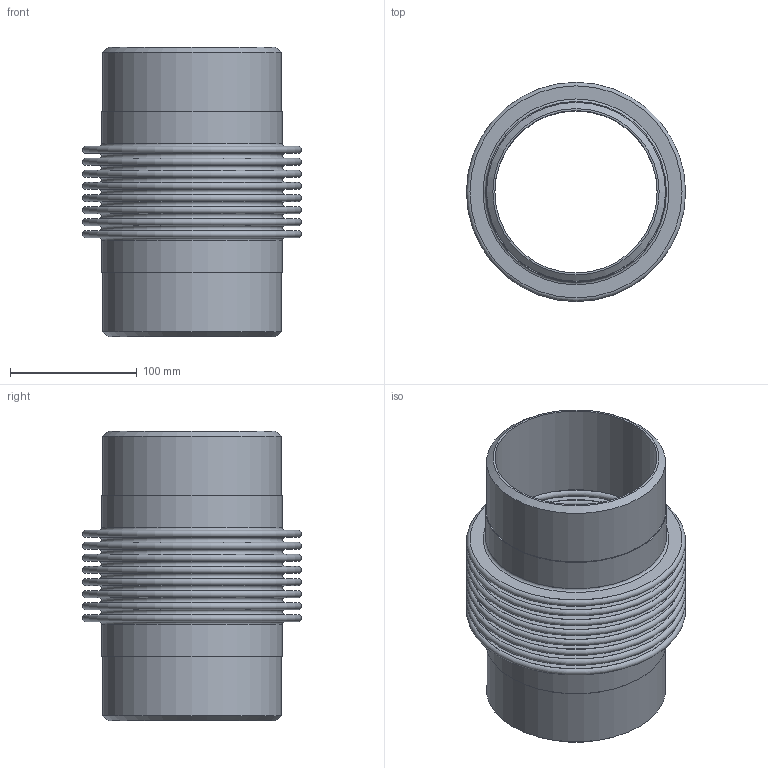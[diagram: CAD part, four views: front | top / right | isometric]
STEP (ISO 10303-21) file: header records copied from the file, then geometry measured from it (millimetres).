
FILE_DESCRIPTION(/* description */ ('EXPANSION JOINT,SINGLE, WELD ENDS,4 INCH NOMINAL'),/* implementation_level */ '2;1');
FILE_NAME(/* name */ 'US-5-150S- WELD-ENDS.stp',/* time_stamp */ '2026-07-30T09:38:46-05:00',/* author */ ('jorgef'),/* organization */ (''),/* preprocessor_version */ 'ST-DEVELOPER v20.1',/* originating_system */ 'Autodesk Inventor 2026',/* authorisation */ '');
FILE_SCHEMA (('AUTOMOTIVE_DESIGN { 1 0 10303 214 3 1 1 }'));
Length unit declared in the file: inch
Products named in the file (3): SINGLE STOCK  BELLOW WELDED ENDS  5-150 PSIG; STOCK BELLOW - US-5-8-150S; PIPE- 5 -150 PSIG
Assembly tree (3 placements, depth 2):
  SINGLE STOCK  BELLOW WELDED ENDS  5-150 PSIG
    STOCK BELLOW - US-5-8-150S
    PIPE- 5 -150 PSIG  x2
Bounding box: 173.05 x 173.05 x 228.6 mm (x, y, z)
Volume: 539195.1 mm3; surface area: 466988 mm2
Topology: 5 solids, 5 shells, 86 faces, 132 edges, 89 vertices
Faces by surface type: plane 42, torus 34, cylinder 8, cone 2
Full cylindrical faces by diameter (mm): 128.194 x2, 141.3 x4, 142.824 x2
Entity records: 2033 total; most frequent: DIRECTION 413, CARTESIAN_POINT 293, ORIENTED_EDGE 246, AXIS2_PLACEMENT_3D 203, EDGE_CURVE 123, EDGE_LOOP 121, CIRCLE 116, VERTEX_POINT 82
